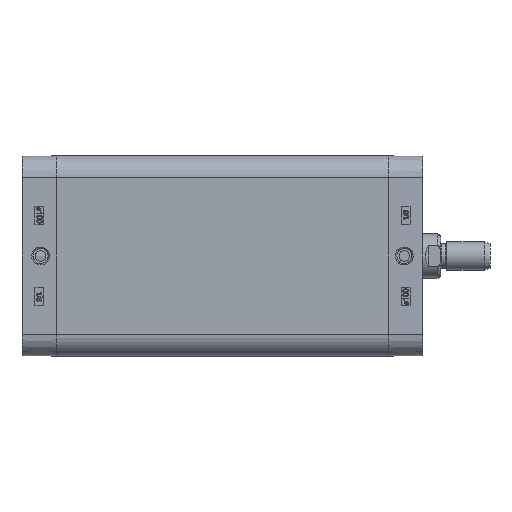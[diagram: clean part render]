
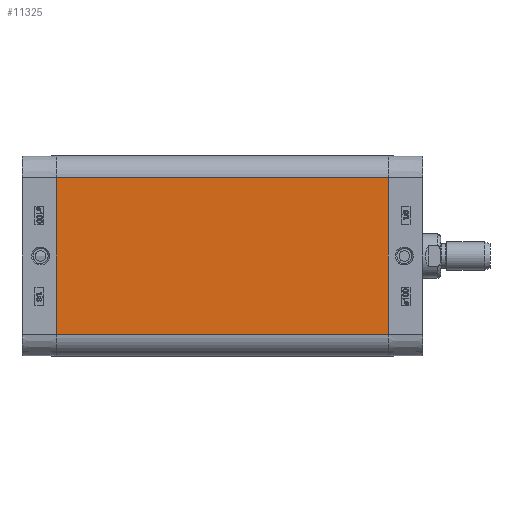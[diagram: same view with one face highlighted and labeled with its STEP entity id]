
A CAD part, left-side view. The second image highlights one B-rep face of the part: STEP entity #11325.
In plain terms, the highlighted planar face has unit normal (-1, 0, 0).
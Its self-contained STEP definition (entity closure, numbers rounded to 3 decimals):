
#5690=CARTESIAN_POINT('',(-56.65,-188.0,44.4));
#5691=VERTEX_POINT('',#5690);
#5698=CARTESIAN_POINT('',(-56.65,-188.0,-44.4));
#5699=VERTEX_POINT('',#5698);
#5700=CARTESIAN_POINT('',(-56.65,-188.0,-44.4));
#5701=DIRECTION('',(0.0,0.0,1.0));
#5702=VECTOR('',#5701,88.8);
#5703=LINE('',#5700,#5702);
#5704=EDGE_CURVE('',#5699,#5691,#5703,.T.);
#11283=CARTESIAN_POINT('',(-56.65,0.0,-44.4));
#11284=VERTEX_POINT('',#11283);
#11285=CARTESIAN_POINT('',(-56.65,0.0,-44.4));
#11286=DIRECTION('',(0.0,-1.0,0.0));
#11287=VECTOR('',#11286,188.0);
#11288=LINE('',#11285,#11287);
#11289=EDGE_CURVE('',#11284,#5699,#11288,.T.);
#11302=CARTESIAN_POINT('',(-56.65,0.0,-44.4));
#11303=DIRECTION('',(-1.0,0.0,0.0));
#11304=DIRECTION('',(0.0,0.0,1.0));
#11305=AXIS2_PLACEMENT_3D('',#11302,#11303,#11304);
#11306=PLANE('',#11305);
#11307=ORIENTED_EDGE('',*,*,#5704,.T.);
#11308=CARTESIAN_POINT('',(-56.65,0.0,44.4));
#11309=VERTEX_POINT('',#11308);
#11310=CARTESIAN_POINT('',(-56.65,0.0,44.4));
#11311=DIRECTION('',(0.0,-1.0,0.0));
#11312=VECTOR('',#11311,188.0);
#11313=LINE('',#11310,#11312);
#11314=EDGE_CURVE('',#11309,#5691,#11313,.T.);
#11315=ORIENTED_EDGE('',*,*,#11314,.F.);
#11316=CARTESIAN_POINT('',(-56.65,0.0,-44.4));
#11317=DIRECTION('',(0.0,0.0,1.0));
#11318=VECTOR('',#11317,88.8);
#11319=LINE('',#11316,#11318);
#11320=EDGE_CURVE('',#11284,#11309,#11319,.T.);
#11321=ORIENTED_EDGE('',*,*,#11320,.F.);
#11322=ORIENTED_EDGE('',*,*,#11289,.T.);
#11323=EDGE_LOOP('',(#11307,#11315,#11321,#11322));
#11324=FACE_OUTER_BOUND('',#11323,.T.);
#11325=ADVANCED_FACE('',(#11324),#11306,.T.);
